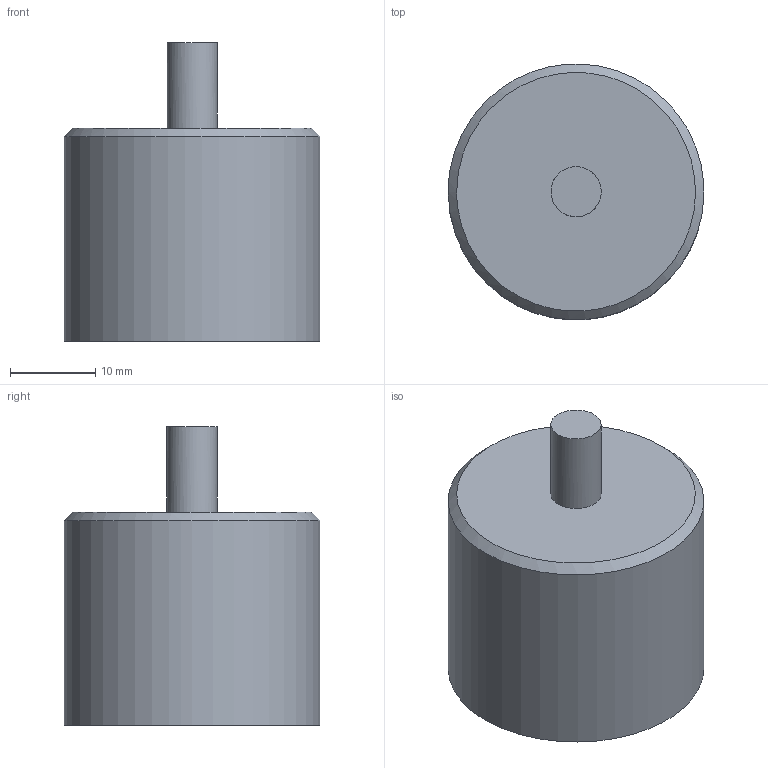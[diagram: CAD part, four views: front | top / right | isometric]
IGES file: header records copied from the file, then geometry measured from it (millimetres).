
Global section: file name: PMH-0-30x25; native system: unknown; preprocessor: unknown; author: unknown; organization: unknown; date: 20221128.165146; units: millimetre
Bounding box: 29.98 x 29.96 x 35 mm (x, y, z)
Volume: 17918 mm3; surface area: 3909.8 mm2
Topology: 1 solids, 1 shells, 10 faces, 14 edges, 9 vertices
Faces by surface type: bspline 10
